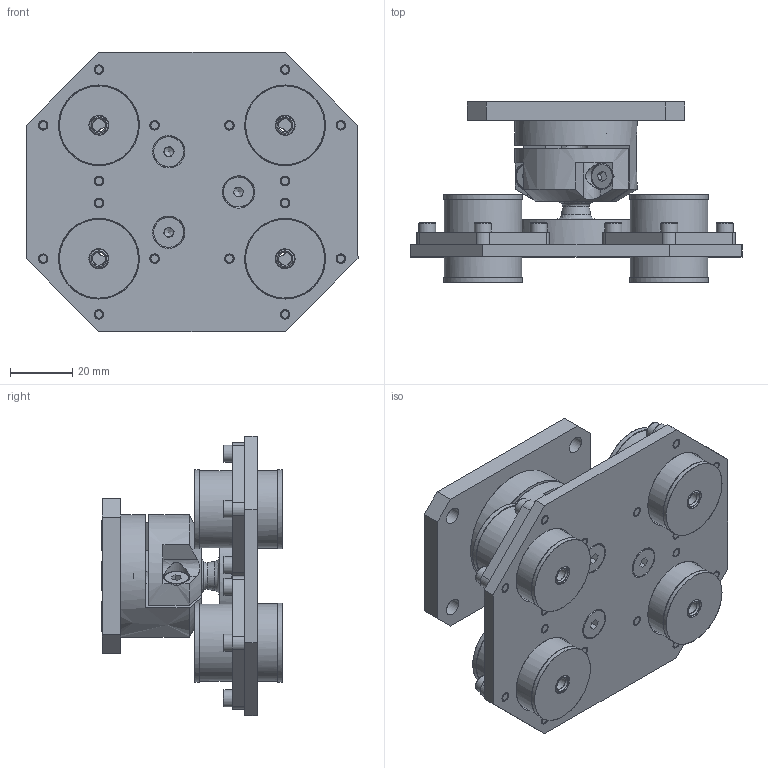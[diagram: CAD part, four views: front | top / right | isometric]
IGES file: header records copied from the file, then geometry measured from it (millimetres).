
Global section: file name: H:\lem\3DCAD_BTS_0500M_W.igs; native system: NX V11.0; preprocessor: SIEMENS PLM Software NX 11.0; date: 20190731.152423; units: millimetre
Bounding box: 107 x 58.2 x 90 mm (x, y, z)
Surface area: 102398.8 mm2 (no closed solid volume)
Topology: 0 solids, 0 shells, 831 faces, 6275 edges, 6150 vertices
Faces by surface type: bspline 831
